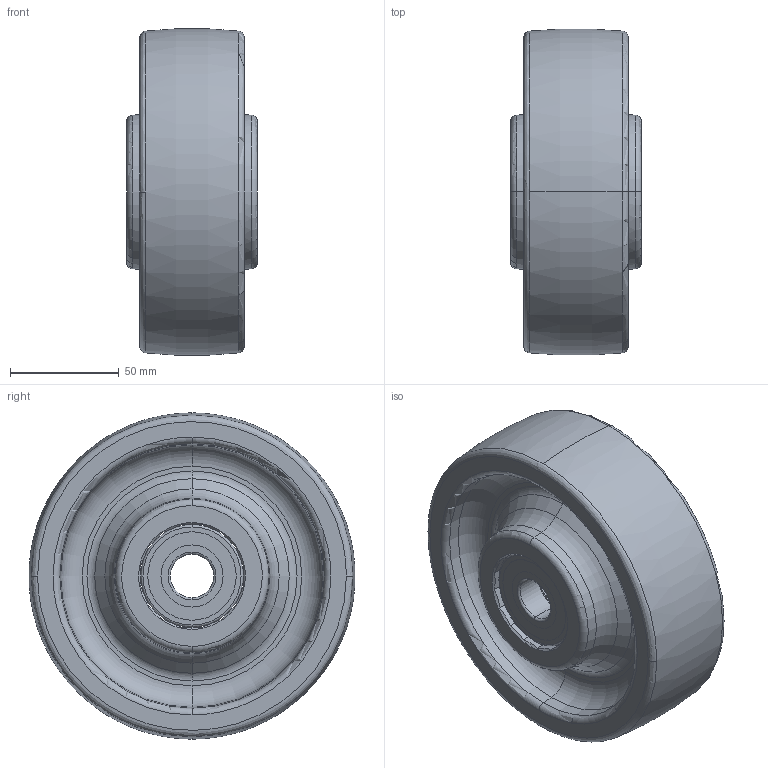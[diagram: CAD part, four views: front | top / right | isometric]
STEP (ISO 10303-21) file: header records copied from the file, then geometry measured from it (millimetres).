
FILE_DESCRIPTION (( 'STEP AP203' ), '1' );
FILE_NAME ('18011-CC.STEP', '2010-02-11T18:42:19', ( 'Utente' ), ( 'User' ), 'SwSTEP 2.0', 'SolidWorks 2008', '' );
FILE_SCHEMA (( 'CONFIG_CONTROL_DESIGN' ));
Length unit declared in the file: millimetre
Products named in the file (1): 18011-CC
Bounding box: 60 x 149.57 x 149.74 mm (x, y, z)
Surface area: 79071 mm2 (no closed solid volume)
Topology: 0 solids, 8 shells, 124 faces, 323 edges, 214 vertices
Faces by surface type: plane 49, torus 38, cone 21, cylinder 14, bspline 2
Entity records: 6578 total; most frequent: CARTESIAN_POINT 3572, DIRECTION 602, ORIENTED_EDGE 586, EDGE_CURVE 323, AXIS2_PLACEMENT_3D 252, VERTEX_POINT 214, EDGE_LOOP 139, CIRCLE 129
